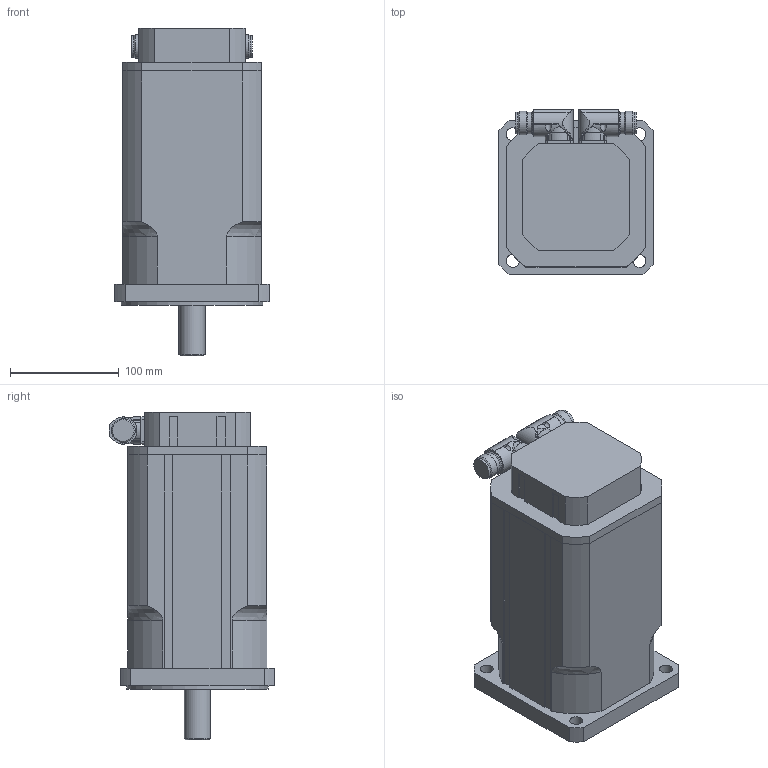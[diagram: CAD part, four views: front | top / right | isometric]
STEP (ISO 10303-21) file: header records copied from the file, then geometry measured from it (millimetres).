
FILE_DESCRIPTION(/* description */ ('Alibre Inc.'),/* implementation_level */ '2;1');
FILE_NAME(/* name */ 'export0',/* time_stamp */ '2011-08-10T15:08:41+02:00',/* author */ (''),/* organization */ (''),/* preprocessor_version */ 'ST-DEVELOPER v12',/* originating_system */ 'Alibre',/* authorisation */ '');
FILE_SCHEMA (('CONFIG_CONTROL_DESIGN'));
Length unit declared in the file: millimetre
Products named in the file (4): ID_1
Bounding box: 142 x 152 x 302 mm (x, y, z)
Volume: 3880040.3 mm3; surface area: 216000.9 mm2
Topology: 4 solids, 4 shells, 232 faces, 633 edges, 420 vertices
Faces by surface type: cylinder 111, plane 101, bspline 9, cone 7, torus 4
Full cylindrical faces by diameter (mm): 2.7 x8, 20 x8, 22 x4, 24 x1, 52 x1, 130 x1
Entity records: 6139 total; most frequent: CARTESIAN_POINT 1695, ORIENTED_EDGE 828, DIRECTION 783, EDGE_CURVE 414, AXIS2_PLACEMENT_3D 316, VERTEX_POINT 290, VECTOR 231, LINE 231
